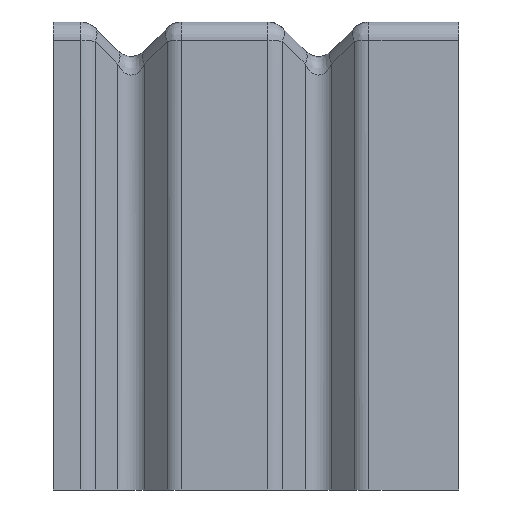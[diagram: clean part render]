
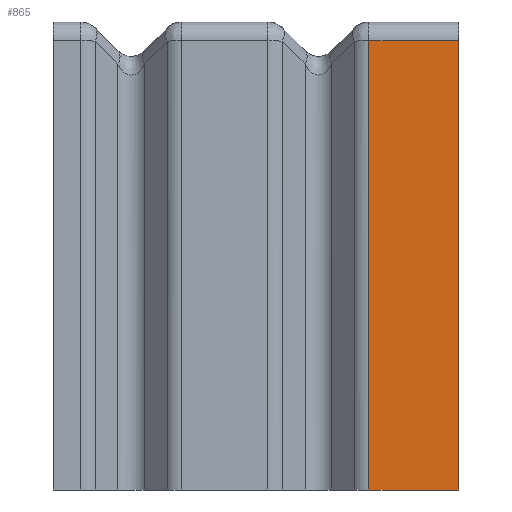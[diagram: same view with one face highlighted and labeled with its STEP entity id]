
A CAD part, left-side view. The second image highlights one B-rep face of the part: STEP entity #865.
In plain terms, the highlighted planar face has unit normal (-1, 0, 0).
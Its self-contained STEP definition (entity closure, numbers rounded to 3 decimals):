
#46 = DIRECTION ( 'NONE',  ( 0., 1., 0. ) ) ;
#57 = VECTOR ( 'NONE', #46, 1000. ) ;
#112 = CARTESIAN_POINT ( 'NONE',  ( -150., 28.822, -4.5 ) ) ;
#162 = VERTEX_POINT ( 'NONE', #1855 ) ;
#248 = CARTESIAN_POINT ( 'NONE',  ( -150., 0., -4.5 ) ) ;
#259 = LINE ( 'NONE', #1707, #1451 ) ;
#344 = ORIENTED_EDGE ( 'NONE', *, *, #388, .T. ) ;
#353 = FACE_OUTER_BOUND ( 'NONE', #1224, .T. ) ;
#388 = EDGE_CURVE ( 'NONE', #725, #162, #3029, .T. ) ;
#484 = VERTEX_POINT ( 'NONE', #248 ) ;
#716 = DIRECTION ( 'NONE',  ( 1., 0., 0. ) ) ;
#725 = VERTEX_POINT ( 'NONE', #112 ) ;
#865 = ADVANCED_FACE ( 'NONE', ( #353 ), #2134, .F. ) ;
#946 = EDGE_CURVE ( 'NONE', #2070, #162, #1920, .T. ) ;
#950 = DIRECTION ( 'NONE',  ( 0., 0., -1. ) ) ;
#958 = CARTESIAN_POINT ( 'NONE',  ( -150., 0., 1.5 ) ) ;
#1224 = EDGE_LOOP ( 'NONE', ( #3014, #2438, #344, #1887 ) ) ;
#1336 = AXIS2_PLACEMENT_3D ( 'NONE', #958, #716, #2359 ) ;
#1451 = VECTOR ( 'NONE', #1931, 1000. ) ;
#1707 = CARTESIAN_POINT ( 'NONE',  ( -150., 28.822, -4.5 ) ) ;
#1855 = CARTESIAN_POINT ( 'NONE',  ( -150., 28.822, -148.5 ) ) ;
#1887 = ORIENTED_EDGE ( 'NONE', *, *, #946, .F. ) ;
#1920 = LINE ( 'NONE', #2841, #57 ) ;
#1931 = DIRECTION ( 'NONE',  ( 0., 1., 0. ) ) ;
#2070 = VERTEX_POINT ( 'NONE', #2754 ) ;
#2090 = DIRECTION ( 'NONE',  ( 0., 0., -1. ) ) ;
#2116 = CARTESIAN_POINT ( 'NONE',  ( -150., 0., 1.5 ) ) ;
#2134 = PLANE ( 'NONE',  #1336 ) ;
#2209 = EDGE_CURVE ( 'NONE', #484, #2070, #2930, .T. ) ;
#2230 = VECTOR ( 'NONE', #950, 1000. ) ;
#2359 = DIRECTION ( 'NONE',  ( 0., 1., 0. ) ) ;
#2399 = VECTOR ( 'NONE', #2090, 1000. ) ;
#2438 = ORIENTED_EDGE ( 'NONE', *, *, #2566, .T. ) ;
#2566 = EDGE_CURVE ( 'NONE', #484, #725, #259, .T. ) ;
#2754 = CARTESIAN_POINT ( 'NONE',  ( -150., 0., -148.5 ) ) ;
#2777 = CARTESIAN_POINT ( 'NONE',  ( -150., 28.822, 1.5 ) ) ;
#2841 = CARTESIAN_POINT ( 'NONE',  ( -150., 0., -148.5 ) ) ;
#2930 = LINE ( 'NONE', #2116, #2230 ) ;
#3014 = ORIENTED_EDGE ( 'NONE', *, *, #2209, .F. ) ;
#3029 = LINE ( 'NONE', #2777, #2399 ) ;
